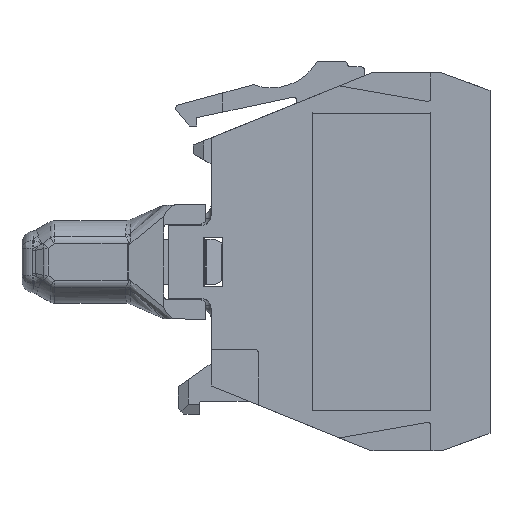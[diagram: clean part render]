
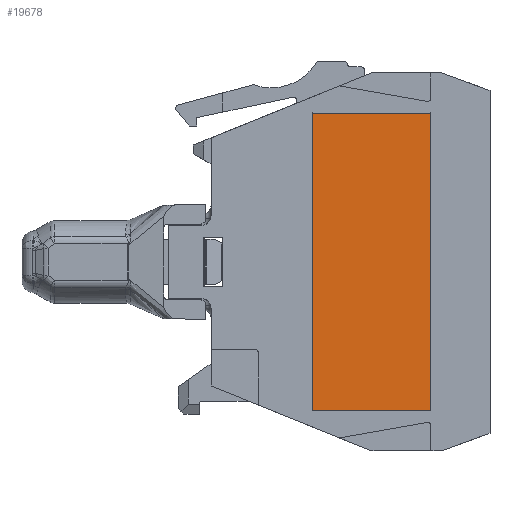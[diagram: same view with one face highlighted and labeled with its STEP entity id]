
A CAD part, left-side view. The second image highlights one B-rep face of the part: STEP entity #19678.
In plain terms, the highlighted planar face has unit normal (-1, 0, 0) as drawn and (0, 0, -1) by its records, which use the part's own axes.
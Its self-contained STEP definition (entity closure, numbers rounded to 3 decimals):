
#10117=DIRECTION('',(0.,-1.,0.));
#10118=VECTOR('',#10117,10.);
#10119=CARTESIAN_POINT('',(12.6,15.,-4.8));
#10120=LINE('',#10119,#10118);
#10124=DIRECTION('',(1.,0.,0.));
#10125=VECTOR('',#10124,25.2);
#10126=CARTESIAN_POINT('',(-12.6,15.,-4.8));
#10127=LINE('',#10126,#10125);
#10131=DIRECTION('',(0.,1.,0.));
#10132=VECTOR('',#10131,10.);
#10133=CARTESIAN_POINT('',(-12.6,5.,-4.8));
#10134=LINE('',#10133,#10132);
#10138=DIRECTION('',(-1.,0.,0.));
#10139=VECTOR('',#10138,25.2);
#10140=CARTESIAN_POINT('',(12.6,5.,-4.8));
#10141=LINE('',#10140,#10139);
#10801=CARTESIAN_POINT('',(12.6,15.,-4.8));
#10802=CARTESIAN_POINT('',(12.6,5.,-4.8));
#10803=VERTEX_POINT('',#10801);
#10804=VERTEX_POINT('',#10802);
#10805=CARTESIAN_POINT('',(-12.6,5.,-4.8));
#10806=VERTEX_POINT('',#10805);
#10807=CARTESIAN_POINT('',(-12.6,15.,-4.8));
#10808=VERTEX_POINT('',#10807);
#19667=CARTESIAN_POINT('',(0.,0.,-4.8));
#19668=DIRECTION('',(0.,0.,-1.));
#19669=DIRECTION('',(-1.,0.,0.));
#19670=AXIS2_PLACEMENT_3D('',#19667,#19668,#19669);
#19671=PLANE('',#19670);
#19672=ORIENTED_EDGE('',*,*,#19619,.F.);
#19673=ORIENTED_EDGE('',*,*,#19634,.F.);
#19674=ORIENTED_EDGE('',*,*,#19648,.F.);
#19675=ORIENTED_EDGE('',*,*,#19661,.F.);
#19676=EDGE_LOOP('',(#19672,#19673,#19674,#19675));
#19677=FACE_OUTER_BOUND('',#19676,.F.);
#19619=EDGE_CURVE('',#10803,#10804,#10120,.T.);
#19634=EDGE_CURVE('',#10808,#10803,#10127,.T.);
#19648=EDGE_CURVE('',#10806,#10808,#10134,.T.);
#19661=EDGE_CURVE('',#10804,#10806,#10141,.T.);
#19678=ADVANCED_FACE('',(#19677),#19671,.T.);
